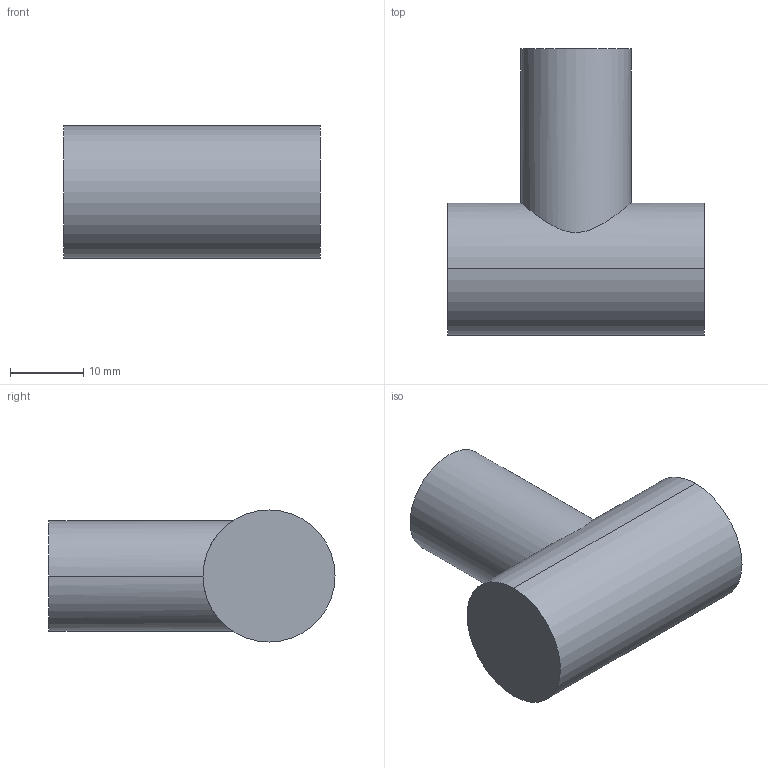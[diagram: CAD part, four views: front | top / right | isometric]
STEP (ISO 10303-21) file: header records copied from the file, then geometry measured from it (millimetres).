
FILE_DESCRIPTION( ( '' ), '1' );
FILE_NAME( 'C:/Documents and Settings/Nikhil/Desktop/Nik/Done/9069816.stp', '2013-10-23T09:05:15', ( '' ), ( '' ), ' ', ' ', ' ' );
FILE_SCHEMA( ( 'automotive_design' ) );
Length unit declared in the file: millimetre
Products named in the file (1): 1
Bounding box: 35 x 39 x 18 mm (x, y, z)
Volume: 12614.3 mm3; surface area: 3669.4 mm2
Topology: 1 solids, 1 shells, 10 faces, 19 edges, 13 vertices
Faces by surface type: cylinder 6, plane 4
Entity records: 586 total; most frequent: CARTESIAN_POINT 110, DIRECTION 48, STYLED_ITEM 43, PRESENTATION_STYLE_ASSIGNMENT 43, COLOUR_RGB 43, ORIENTED_EDGE 38, AXIS2_PLACEMENT_3D 21, EDGE_CURVE 19
